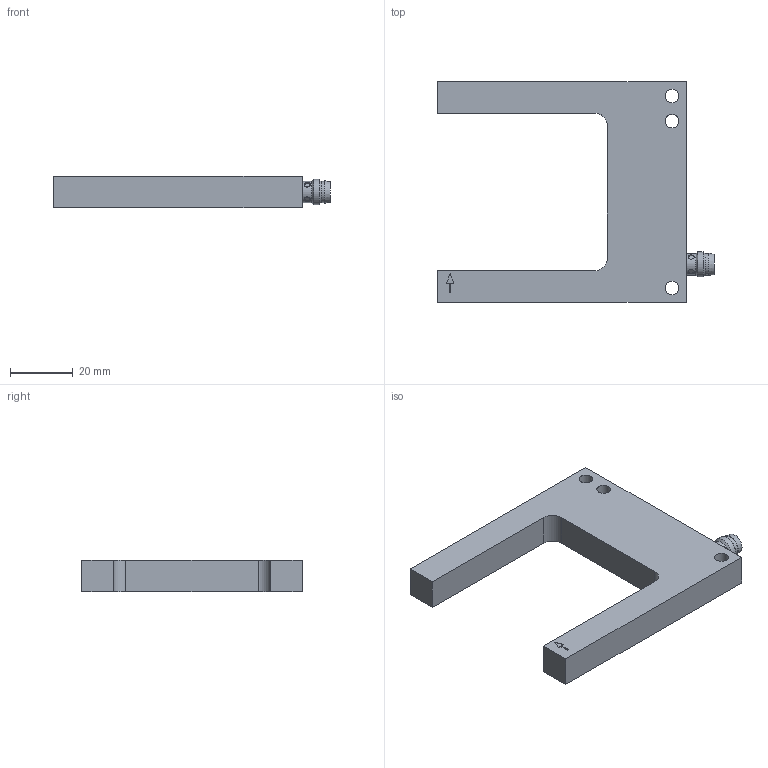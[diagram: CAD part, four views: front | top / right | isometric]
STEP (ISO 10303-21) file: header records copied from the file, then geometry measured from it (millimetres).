
FILE_DESCRIPTION(/* description */ (''),/* implementation_level */ '2;1');
FILE_NAME(/* name */ 'C:\#Vault-WorkDir\Konstruktions-Dokumente\Projekte\FGL\153-00266_FGL 50-R-PSM3.stp',/* time_stamp */ '2019-02-13T12:01:27+01:00',/* author */ ('SensoPart'),/* organization */ ('SensoPart'),/* preprocessor_version */ 'ST-DEVELOPER v17',/* originating_system */ 'Autodesk Inventor 2018',/* authorisation */ '');
FILE_SCHEMA (('AUTOMOTIVE_DESIGN { 1 0 10303 214 3 1 1 }'));
Length unit declared in the file: millimetre
Products named in the file (1): GH-ENG-0027939
Bounding box: 88 x 70 x 10 mm (x, y, z)
Volume: 28147.7 mm3; surface area: 10391.6 mm2
Topology: 1 solids, 1 shells, 65 faces, 172 edges, 123 vertices
Faces by surface type: plane 35, cylinder 24, sphere 3, cone 3
Full cylindrical faces by diameter (mm): 1 x3, 2 x4, 4 x2, 4.3 x3, 5.8 x1, 6.773 x2, 8 x3
Entity records: 2311 total; most frequent: CARTESIAN_POINT 494, DIRECTION 370, ORIENTED_EDGE 338, EDGE_CURVE 169, AXIS2_PLACEMENT_3D 143, VERTEX_POINT 123, EDGE_LOOP 88, LINE 84
